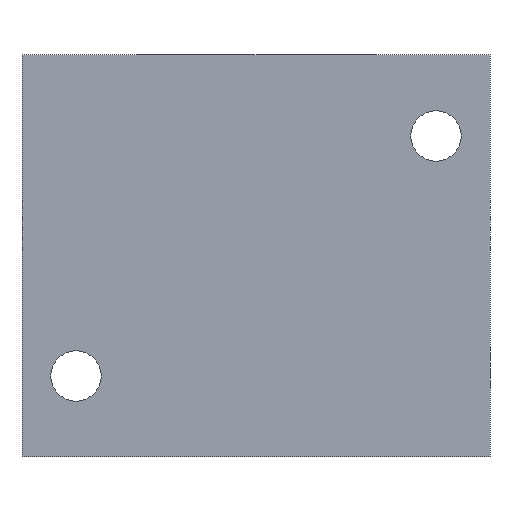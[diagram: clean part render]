
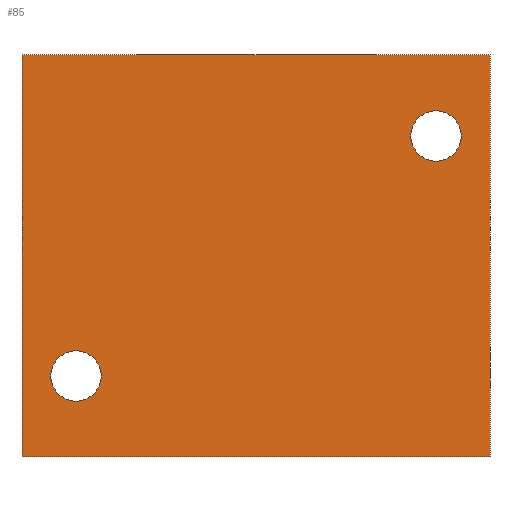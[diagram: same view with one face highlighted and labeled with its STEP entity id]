
A CAD part, front view. The second image highlights one B-rep face of the part: STEP entity #85.
In plain terms, the highlighted planar face has unit normal (0, -1, 0).
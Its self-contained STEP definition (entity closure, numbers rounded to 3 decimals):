
#85=ADVANCED_FACE('',(#192,#193,#194),#195,.T.);
#192=FACE_BOUND('',#444,.T.);
#193=FACE_BOUND('',#445,.T.);
#194=FACE_OUTER_BOUND('',#446,.T.);
#195=PLANE('',#447);
#444=EDGE_LOOP('',(#744));
#445=EDGE_LOOP('',(#745));
#446=EDGE_LOOP('',(#746,#747,#748,#749));
#447=AXIS2_PLACEMENT_3D('',#750,#751,#752);
#744=ORIENTED_EDGE('',*,*,#1288,.T.);
#745=ORIENTED_EDGE('',*,*,#1289,.T.);
#746=ORIENTED_EDGE('',*,*,#1290,.F.);
#747=ORIENTED_EDGE('',*,*,#1291,.F.);
#748=ORIENTED_EDGE('',*,*,#1292,.T.);
#749=ORIENTED_EDGE('',*,*,#1286,.T.);
#750=CARTESIAN_POINT('',(39.0,-30.0,33.5));
#751=DIRECTION('',(0.0,-1.0,0.0));
#752=DIRECTION('',(1.0,0.0,0.0));
#1286=EDGE_CURVE('',#1473,#1471,#1474,.T.);
#1288=EDGE_CURVE('',#1476,#1476,#1477,.T.);
#1289=EDGE_CURVE('',#1478,#1478,#1479,.T.);
#1290=EDGE_CURVE('',#1480,#1471,#1481,.T.);
#1291=EDGE_CURVE('',#1482,#1480,#1483,.T.);
#1292=EDGE_CURVE('',#1482,#1473,#1484,.T.);
#1471=VERTEX_POINT('',#1795);
#1473=VERTEX_POINT('',#1798);
#1474=LINE('',#1799,#1800);
#1476=VERTEX_POINT('',#1803);
#1477=CIRCLE('',#1804,4.2);
#1478=VERTEX_POINT('',#1805);
#1479=CIRCLE('',#1806,4.2);
#1480=VERTEX_POINT('',#1807);
#1481=LINE('',#1808,#1809);
#1482=VERTEX_POINT('',#1810);
#1483=LINE('',#1811,#1812);
#1484=LINE('',#1813,#1814);
#1795=CARTESIAN_POINT('',(-39.0,-30.0,-33.5));
#1798=CARTESIAN_POINT('',(-39.0,-30.0,33.5));
#1799=CARTESIAN_POINT('',(-39.0,-30.0,33.5));
#1800=VECTOR('',#2093,1.0);
#1803=CARTESIAN_POINT('',(30.0,-30.0,24.2));
#1804=AXIS2_PLACEMENT_3D('',#2095,#2096,#2097);
#1805=CARTESIAN_POINT('',(-30.0,-30.0,-24.2));
#1806=AXIS2_PLACEMENT_3D('',#2098,#2099,#2100);
#1807=CARTESIAN_POINT('',(39.0,-30.0,-33.5));
#1808=CARTESIAN_POINT('',(39.0,-30.0,-33.5));
#1809=VECTOR('',#2101,1.0);
#1810=CARTESIAN_POINT('',(39.0,-30.0,33.5));
#1811=CARTESIAN_POINT('',(39.0,-30.0,33.5));
#1812=VECTOR('',#2102,1.0);
#1813=CARTESIAN_POINT('',(39.0,-30.0,33.5));
#1814=VECTOR('',#2103,1.0);
#2093=DIRECTION('',(0.0,0.0,-1.0));
#2095=CARTESIAN_POINT('',(30.0,-30.0,20.0));
#2096=DIRECTION('',(0.0,1.0,0.0));
#2097=DIRECTION('',(0.,0.0,1.0));
#2098=CARTESIAN_POINT('',(-30.0,-30.0,-20.0));
#2099=DIRECTION('',(0.0,1.0,0.0));
#2100=DIRECTION('',(0.0,0.0,-1.0));
#2101=DIRECTION('',(-1.0,0.0,0.0));
#2102=DIRECTION('',(0.0,0.0,-1.0));
#2103=DIRECTION('',(-1.0,0.0,0.0));
